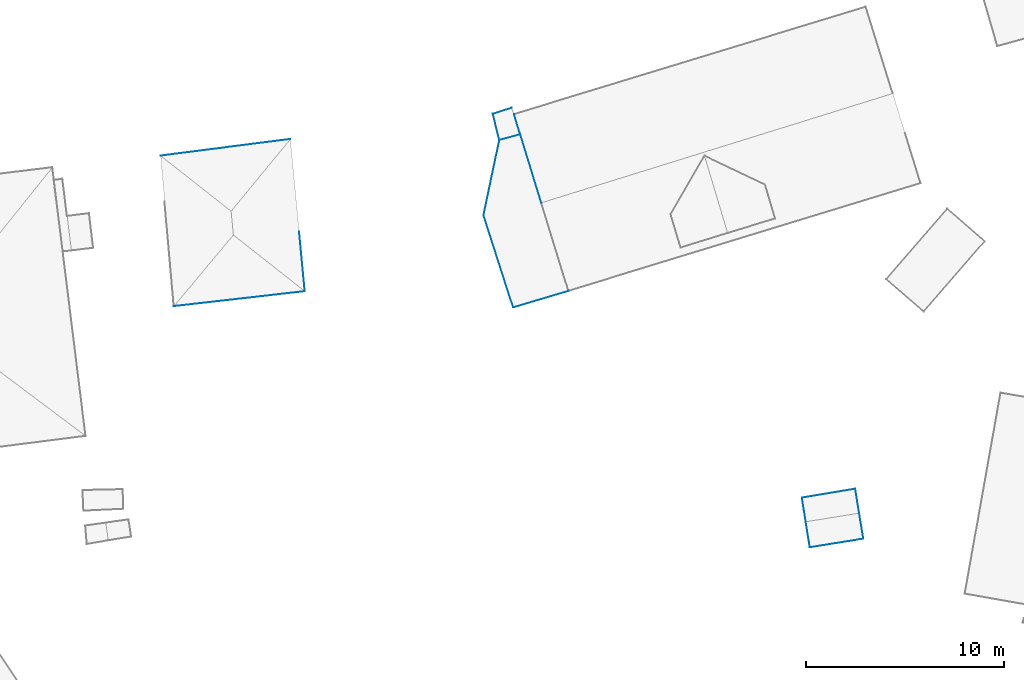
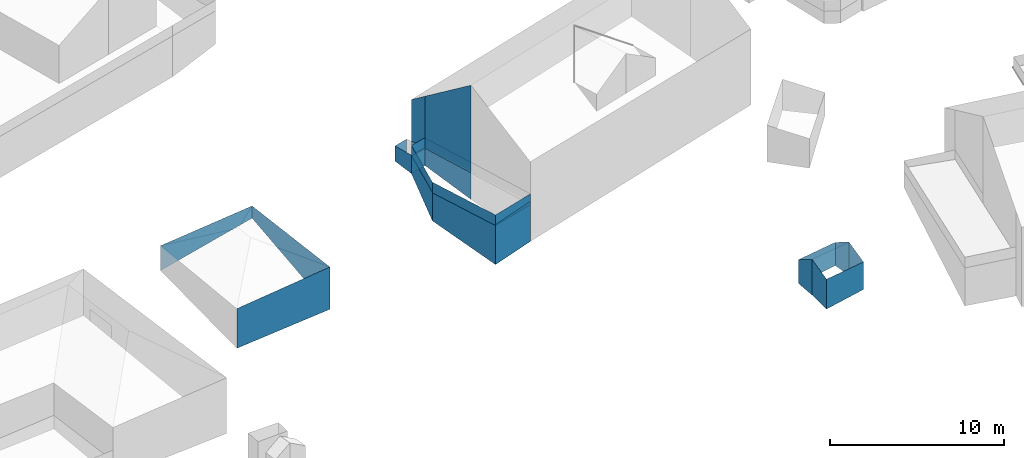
# Not in any storey, part 5 of 57: 35 walls.
"""IFC2X3 building model written with IfcOpenShell, lengths in metres."""

import ifcopenshell
import ifcopenshell.guid

model = None  # the IFC model being written
_history = None  # IfcOwnerHistory: only IFC2X3 demands one
_inside = {}  # id of a spatial element -> (the spatial element, [elements in it])
_under = {}  # id of a project, library or spatial element -> (it, [spatial elements below it])
_declared = {}  # id of a project -> (the project, [libraries it declares])
_typed = {}  # id of a type object -> (the type object, [elements of that type])
_made_of = {}  # id of a material, layer set ... -> (it, [elements and type objects made of it])


def new_model(schema):
    """Start an empty IFC model of exactly this schema.

    Asked for "IFC4X3", IfcOpenShell would pick the latest addendum, in which some entities
    have other attributes; the version numbers below select the first issue.
    IFC2X3 requires an IfcOwnerHistory on every rooted entity: one is made here for all.
    """
    global model, _history
    if schema == "IFC4X3":
        model = ifcopenshell.file(schema_version=(4, 3, 0, 0))
    else:
        model = ifcopenshell.file(schema=schema)
    _inside.clear()
    _under.clear()
    _declared.clear()
    _typed.clear()
    _made_of.clear()
    _history = None
    if model.schema == "IFC2X3":
        org = make("IfcOrganization", Name="unknown")
        user = make(
            "IfcPersonAndOrganization",
            ThePerson=make("IfcPerson", FamilyName="unknown"),
            TheOrganization=org,
        )
        app = make(
            "IfcApplication",
            ApplicationDeveloper=org,
            Version="unknown",
            ApplicationFullName="unknown",
            ApplicationIdentifier="unknown",
        )
        _history = make(
            "IfcOwnerHistory",
            OwningUser=user,
            OwningApplication=app,
            ChangeAction="ADDED",
            CreationDate=0,
        )
    return model


def make(cls, **values):
    """One entity of the class cls with the attributes given. An attribute that is None is left unset."""
    return model.create_entity(
        cls, **{name: value for name, value in values.items() if value is not None}
    )


def entity(cls, *values):
    """Any entity or typed value of the class cls, its attributes in the order of the schema. None: left unset."""
    e = model.create_entity(cls)
    for i, value in enumerate(values):
        if value is not None:
            e[i] = value
    return e


def rooted(cls, **values):
    """An entity with a GlobalId (a new one), such as an element, a storey or a relation."""
    return make(cls, GlobalId=ifcopenshell.guid.new(), OwnerHistory=_history, **values)


def si_unit(unit_type, name, prefix=None):
    """IfcSIUnit, for example si_unit("LENGTHUNIT", "METRE", prefix="MILLI")."""
    return make("IfcSIUnit", UnitType=unit_type, Prefix=prefix, Name=name)


def converted_unit(unit_type, name, factor, base, dimensions=None, offset=None):
    """IfcConversionBasedUnit, such as the inch: factor (a typed value) times the base unit."""
    return make(
        "IfcConversionBasedUnit"
        if offset is None
        else "IfcConversionBasedUnitWithOffset",
        ConversionOffset=offset,
        Dimensions=None
        if dimensions is None
        else entity("IfcDimensionalExponents", *dimensions),
        UnitType=unit_type,
        Name=name,
        ConversionFactor=make(
            "IfcMeasureWithUnit", ValueComponent=factor, UnitComponent=base
        ),
    )


def assignment(units):
    """IfcUnitAssignment: the units of a project."""
    return None if units is None else make("IfcUnitAssignment", Units=units)


def point(xyz):
    """IfcCartesianPoint."""
    return None if xyz is None else make("IfcCartesianPoint", Coordinates=xyz)


def direction(xyz):
    """IfcDirection."""
    return None if xyz is None else make("IfcDirection", DirectionRatios=xyz)


def frame(location, z_axis=None, x_axis=None):
    """IfcAxis2Placement3D, a coordinate frame: its origin and axes. An axis left out is left unset."""
    return make(
        "IfcAxis2Placement3D",
        Location=point(location),
        Axis=direction(z_axis),
        RefDirection=direction(x_axis),
    )


def origin():
    """The frame at (0, 0, 0) with its axes left unset."""
    return frame((0.0, 0.0, 0.0))


def place(relative_to, where):
    """IfcLocalPlacement: puts the frame where relative to a parent placement (None: the world)."""
    return make(
        "IfcLocalPlacement", PlacementRelTo=relative_to, RelativePlacement=where
    )


def context(
    kind, dimensions, precision=None, world=None, true_north=None, identifier=None
):
    """IfcGeometricRepresentationContext, for example the 3D "Model" context."""
    return make(
        "IfcGeometricRepresentationContext",
        ContextIdentifier=identifier,
        ContextType=kind,
        CoordinateSpaceDimension=dimensions,
        Precision=precision,
        WorldCoordinateSystem=world,
        TrueNorth=true_north,
    )


def subcontext(parent, identifier, kind, view, scale=None):
    """IfcGeometricRepresentationSubContext, for example "Body" below "Model"."""
    return make(
        "IfcGeometricRepresentationSubContext",
        ContextIdentifier=identifier,
        ContextType=kind,
        ParentContext=parent,
        TargetScale=scale,
        TargetView=view,
    )


def project(units=None, contexts=None):
    """IfcProject with its units and contexts."""
    return rooted(
        "IfcProject",
        Name="project",
        RepresentationContexts=contexts,
        UnitsInContext=assignment(units),
    )


def spatial(cls, under=None, at=None, **own):
    """A site, building, storey or space (cls), placed at a placement, below another one or the project."""
    s = rooted(cls, ObjectPlacement=at, **own)
    if under is not None:
        _under.setdefault(under.id(), (under, []))[1].append(s)
    return s


def faces_of(points, faces, orient=None, outer=None):
    """IfcFace entities. A face is a list of loops; a loop is a list of indices into points, from 0.

    orient and outer hold one flag for each loop. By default every Orientation is true, the
    first loop of a face is its IfcFaceOuterBound and the others are IfcFaceBound.
    """
    made = []
    for i, loops in enumerate(faces):
        bounds = []
        for j, loop in enumerate(loops):
            is_outer = j == 0 if outer is None else outer[i][j]
            bounds.append(
                make(
                    "IfcFaceOuterBound" if is_outer else "IfcFaceBound",
                    Bound=make("IfcPolyLoop", Polygon=[points[k] for k in loop]),
                    Orientation=True if orient is None else orient[i][j],
                )
            )
        made.append(make("IfcFace", Bounds=bounds))
    return made


def face_set(faces, orient=None, outer=None):
    """The faces of one IfcConnectedFaceSet. surface_model builds it on its shared points."""
    return ("IfcConnectedFaceSet", faces, orient, outer)


def surface_model(cls, points, shells):
    """IfcFaceBasedSurfaceModel or IfcShellBasedSurfaceModel (cls): surfaces that need not close."""
    shared = [point(p) for p in points]
    made = [make(c, CfsFaces=faces_of(shared, fs, o, b)) for c, fs, o, b in shells]
    if cls == "IfcFaceBasedSurfaceModel":
        return make(cls, FbsmFaces=made)
    return make(cls, SbsmBoundary=made)


def shape(context_of_items, identifier, shape_type, items):
    """IfcShapeRepresentation: the items that make up one representation, for example the "Body"."""
    return make(
        "IfcShapeRepresentation",
        ContextOfItems=context_of_items,
        RepresentationIdentifier=identifier,
        RepresentationType=shape_type,
        Items=items,
    )


def made_of(thing, what):
    """Note that an element or type object is made of a material, layer set ...; save() writes the relation."""
    if what is not None:
        _made_of.setdefault(what.id(), (what, []))[1].append(thing)
    return thing


def element(
    cls,
    number,
    at=None,
    inside=None,
    cuts=None,
    type_object=None,
    material=None,
    context=None,
    identifier="Body",
    shape_type=None,
    held_by="IfcProductDefinitionShape",
    body=None,
    shapes=None,
    **own,
):
    """One element of the class cls, such as IfcWall. Its Tag is "e" and its number.

    at: its placement. inside: the storey or other place that contains it. cuts: it is an
    opening in that element (IfcRelVoidsElement). A single representation is given by context,
    identifier, shape_type and body (its items); several are given by shapes. held_by: the class
    of the entity that holds the representations. save() writes the other relations.
    """
    e = rooted(cls, Tag="e%d" % number, ObjectPlacement=at, **own)
    if body is not None:
        shapes = [shape(context, identifier, shape_type, body)]
    if shapes is not None:
        e.Representation = make(held_by, Representations=shapes)
    if inside is not None:
        _inside.setdefault(inside.id(), (inside, []))[1].append(e)
    if cuts is not None:
        rooted(
            "IfcRelVoidsElement", RelatingBuildingElement=cuts, RelatedOpeningElement=e
        )
    if type_object is not None:
        _typed.setdefault(type_object.id(), (type_object, []))[1].append(e)
    return made_of(e, material)


def aggregate(whole, parts):
    """IfcRelAggregates: a whole, such as a stair, and the parts it consists of."""
    return rooted("IfcRelAggregates", RelatingObject=whole, RelatedObjects=parts)


def save(model, path):
    """Write the relations noted so far, then the file.

    IfcRelAggregates (storeys below a building ...), IfcRelContainedInSpatialStructure (elements
    in a storey), IfcRelDefinesByType, IfcRelAssociatesMaterial and IfcRelDeclares: one each for
    every whole, place, type object, material and project.
    """
    for whole, parts in _under.values():
        aggregate(whole, parts)
    for where, things in _inside.values():
        rooted(
            "IfcRelContainedInSpatialStructure",
            RelatedElements=things,
            RelatingStructure=where,
        )
    for kind, things in _typed.values():
        rooted("IfcRelDefinesByType", RelatedObjects=things, RelatingType=kind)
    for what, things in _made_of.values():
        rooted("IfcRelAssociatesMaterial", RelatedObjects=things, RelatingMaterial=what)
    for by, libraries in _declared.values():
        rooted("IfcRelDeclares", RelatingContext=by, RelatedDefinitions=libraries)
    model.write(path)


model = new_model("IFC2X3")

# Units and contexts
model_context = context("Model", 3, precision=1e-05, world=origin())
body_context = subcontext(model_context, "Body", "Model", "MODEL_VIEW")
ifc_project = project(units=[converted_unit("PLANEANGLEUNIT", "DEGREE", entity("IfcRatioMeasure", 0.0174532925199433), si_unit("PLANEANGLEUNIT", "RADIAN"), dimensions=[0, 0, 0, 0, 0, 0, 0]), si_unit("AREAUNIT", "SQUARE_METRE"), si_unit("LENGTHUNIT", "METRE")], contexts=[model_context])

# Site, building
site_placement = place(None, origin())
site = spatial("IfcSite", under=ifc_project, at=site_placement, Name="_site", CompositionType="ELEMENT")
building_1_placement = place(site_placement, origin())
building_1 = spatial("IfcBuilding", under=site, at=building_1_placement, Name="_building", CompositionType="ELEMENT")

# Walls
wall_1_placement = place(building_1_placement, origin())
element("IfcWall", 1, at=wall_1_placement, inside=building_1, Name="Wall", context=body_context, shape_type="SurfaceModel", body=[
    surface_model("IfcFaceBasedSurfaceModel", [(124.001, 109.289, 120.52), (122.94, 112.745, 118.02), (122.94, 112.745, 114.36), (124.001, 109.289, 114.36)], [face_set([[[0, 1, 2, 3]]])]),
])
wall_2_placement = place(building_1_placement, origin())
element("IfcWall", 2, at=wall_2_placement, inside=building_1, Name="Wall", context=body_context, shape_type="SurfaceModel", body=[
    surface_model("IfcFaceBasedSurfaceModel", [(122.623, 113.763, 114.36), (122.94, 112.745, 114.43), (122.94, 112.745, 113.157), (122.623, 113.763, 113.338)], [face_set([[[0, 1, 2, 3]]])]),
])
wall_3_placement = place(building_1_placement, origin())
element("IfcWall", 3, at=wall_3_placement, inside=building_1, Name="Wall", context=body_context, shape_type="SurfaceModel", body=[
    surface_model("IfcFaceBasedSurfaceModel", [(122.94, 112.745, 114.36), (124.001, 109.289, 114.36), (124.001, 109.289, 112.498), (122.94, 112.745, 113.157)], [face_set([[[0, 1, 2, 3]]])]),
])
wall_4_placement = place(building_1_placement, origin())
element("IfcWall", 4, at=wall_4_placement, inside=building_1, Name="Wall", context=body_context, shape_type="SurfaceModel", body=[
    surface_model("IfcFaceBasedSurfaceModel", [(121.882, 112.46, 114.43), (121.553, 113.779, 114.39), (121.553, 113.779, 113.322), (121.882, 112.46, 113.124)], [face_set([[[0, 1, 2, 3]]])]),
])
wall_5_placement = place(building_1_placement, origin())
element("IfcWall", 5, at=wall_5_placement, inside=building_1, Name="Wall", context=body_context, shape_type="SurfaceModel", body=[
    surface_model("IfcFaceBasedSurfaceModel", [(122.94, 112.745, 118.02), (122.623, 113.763, 117.28), (122.623, 113.763, 113.338), (122.94, 112.745, 113.157)], [face_set([[[0, 1, 2, 3]]])]),
])
wall_6_placement = place(building_1_placement, origin())
element("IfcWall", 6, at=wall_6_placement, inside=building_1, Name="Wall", context=body_context, shape_type="SurfaceModel", body=[
    surface_model("IfcFaceBasedSurfaceModel", [(121.553, 113.779, 114.39), (122.501, 114.087, 114.36), (122.501, 114.087, 113.396), (121.553, 113.779, 113.322)], [face_set([[[0, 1, 2, 3]]])]),
])

# Building
building_2_placement = place(site_placement, origin())
building_2 = spatial("IfcBuilding", under=site, at=building_2_placement, Name="_building", CompositionType="ELEMENT")

# Walls
wall_7_placement = place(building_2_placement, origin())
element("IfcWall", 7, at=wall_7_placement, inside=building_2, Name="Wall", context=body_context, shape_type="SurfaceModel", body=[
    surface_model("IfcFaceBasedSurfaceModel", [(121.882, 112.46, 114.36), (122.94, 112.745, 114.36), (122.94, 112.745, 113.157), (121.882, 112.46, 113.124)], [face_set([[[0, 1, 2, 3]]])]),
])
wall_8_placement = place(building_2_placement, origin())
element("IfcWall", 8, at=wall_8_placement, inside=building_2, Name="Wall", context=body_context, shape_type="SurfaceModel", body=[
    surface_model("IfcFaceBasedSurfaceModel", [(121.083, 108.666, 114.36), (121.882, 112.46, 114.36), (121.882, 112.46, 113.124), (121.083, 108.666, 112.39)], [face_set([[[0, 1, 2, 3]]])]),
])
wall_9_placement = place(building_2_placement, origin())
element("IfcWall", 9, at=wall_9_placement, inside=building_2, Name="Wall", context=body_context, shape_type="SurfaceModel", body=[
    surface_model("IfcFaceBasedSurfaceModel", [(122.585, 103.998, 114.36), (121.083, 108.666, 114.36), (121.083, 108.666, 112.39), (122.585, 103.998, 111.618)], [face_set([[[0, 1, 2, 3]]])]),
])
wall_10_placement = place(building_2_placement, origin())
element("IfcWall", 10, at=wall_10_placement, inside=building_2, Name="Wall", context=body_context, shape_type="SurfaceModel", body=[
    surface_model("IfcFaceBasedSurfaceModel", [(125.376, 104.833, 114.36), (122.585, 103.998, 114.36), (122.585, 103.998, 111.618), (125.376, 104.833, 111.765)], [face_set([[[0, 1, 2, 3]]])]),
])
wall_11_placement = place(building_2_placement, origin())
element("IfcWall", 11, at=wall_11_placement, inside=building_2, Name="Wall", context=body_context, shape_type="SurfaceModel", body=[
    surface_model("IfcFaceBasedSurfaceModel", [(122.94, 112.745, 114.43), (121.882, 112.46, 114.43), (121.882, 112.46, 113.124), (122.94, 112.745, 113.157)], [face_set([[[0, 1, 2, 3]]])]),
])
wall_12_placement = place(building_2_placement, origin())
element("IfcWall", 12, at=wall_12_placement, inside=building_2, Name="Wall", context=body_context, shape_type="SurfaceModel", body=[
    surface_model("IfcFaceBasedSurfaceModel", [(122.94, 112.745, 114.43), (124.001, 109.289, 114.491), (124.001, 109.289, 112.498), (122.94, 112.745, 113.157)], [face_set([[[0, 1, 2, 3]]])]),
])
wall_13_placement = place(building_2_placement, origin())
element("IfcWall", 13, at=wall_13_placement, inside=building_2, Name="Wall", context=body_context, shape_type="SurfaceModel", body=[
    surface_model("IfcFaceBasedSurfaceModel", [(121.882, 112.46, 114.43), (122.94, 112.745, 114.43), (122.94, 112.745, 113.157), (121.882, 112.46, 113.124)], [face_set([[[0, 1, 2, 3]]])]),
])
wall_14_placement = place(building_2_placement, origin())
element("IfcWall", 14, at=wall_14_placement, inside=building_2, Name="Wall", context=body_context, shape_type="SurfaceModel", body=[
    surface_model("IfcFaceBasedSurfaceModel", [(121.083, 108.666, 114.43), (121.882, 112.46, 114.43), (121.882, 112.46, 113.124), (121.083, 108.666, 112.39)], [face_set([[[0, 1, 2, 3]]])]),
])
wall_15_placement = place(building_2_placement, origin())
element("IfcWall", 15, at=wall_15_placement, inside=building_2, Name="Wall", context=body_context, shape_type="SurfaceModel", body=[
    surface_model("IfcFaceBasedSurfaceModel", [(122.585, 103.998, 114.45), (121.083, 108.666, 114.43), (121.083, 108.666, 112.39), (122.585, 103.998, 111.618)], [face_set([[[0, 1, 2, 3]]])]),
])
wall_16_placement = place(building_2_placement, origin())
element("IfcWall", 16, at=wall_16_placement, inside=building_2, Name="Wall", context=body_context, shape_type="SurfaceModel", body=[
    surface_model("IfcFaceBasedSurfaceModel", [(125.376, 104.833, 114.57), (122.585, 103.998, 114.45), (122.585, 103.998, 111.618), (125.376, 104.833, 111.765)], [face_set([[[0, 1, 2, 3]]])]),
])
wall_17_placement = place(building_2_placement, origin())
element("IfcWall", 17, at=wall_17_placement, inside=building_2, Name="Wall", context=body_context, shape_type="SurfaceModel", body=[
    surface_model("IfcFaceBasedSurfaceModel", [(122.94, 112.745, 114.36), (121.882, 112.46, 114.36), (121.882, 112.46, 115.11), (122.94, 112.745, 115.11)], [face_set([[[0, 1, 2, 3]]])]),
])
wall_18_placement = place(building_2_placement, origin())
element("IfcWall", 18, at=wall_18_placement, inside=building_2, Name="Wall", context=body_context, shape_type="SurfaceModel", body=[
    surface_model("IfcFaceBasedSurfaceModel", [(124.001, 109.289, 114.36), (122.94, 112.745, 114.36), (122.94, 112.745, 115.11), (124.001, 109.289, 115.11)], [face_set([[[0, 1, 2, 3]]])]),
])
wall_19_placement = place(building_2_placement, origin())
element("IfcWall", 19, at=wall_19_placement, inside=building_2, Name="Wall", context=body_context, shape_type="SurfaceModel", body=[
    surface_model("IfcFaceBasedSurfaceModel", [(122.585, 103.998, 114.36), (125.376, 104.833, 114.36), (125.376, 104.833, 115.11), (122.585, 103.998, 115.11)], [face_set([[[0, 1, 2, 3]]])]),
])
wall_20_placement = place(building_2_placement, origin())
element("IfcWall", 20, at=wall_20_placement, inside=building_2, Name="Wall", context=body_context, shape_type="SurfaceModel", body=[
    surface_model("IfcFaceBasedSurfaceModel", [(121.083, 108.666, 114.36), (122.585, 103.998, 114.36), (122.585, 103.998, 115.11), (121.083, 108.666, 115.11)], [face_set([[[0, 1, 2, 3]]])]),
])
wall_21_placement = place(building_2_placement, origin())
element("IfcWall", 21, at=wall_21_placement, inside=building_2, Name="Wall", context=body_context, shape_type="SurfaceModel", body=[
    surface_model("IfcFaceBasedSurfaceModel", [(121.882, 112.46, 114.36), (121.083, 108.666, 114.36), (121.083, 108.666, 115.11), (121.882, 112.46, 115.11)], [face_set([[[0, 1, 2, 3]]])]),
])
wall_22_placement = place(building_2_placement, origin())
element("IfcWall", 22, at=wall_22_placement, inside=building_2, Name="Wall", context=body_context, shape_type="SurfaceModel", body=[
    surface_model("IfcFaceBasedSurfaceModel", [(122.94, 112.745, 114.36), (121.882, 112.46, 114.36), (121.882, 112.46, 115.11), (122.94, 112.745, 115.11)], [face_set([[[0, 1, 2, 3]]])]),
])
wall_23_placement = place(building_2_placement, origin())
element("IfcWall", 23, at=wall_23_placement, inside=building_2, Name="Wall", context=body_context, shape_type="SurfaceModel", body=[
    surface_model("IfcFaceBasedSurfaceModel", [(124.001, 109.289, 114.36), (122.94, 112.745, 114.36), (122.94, 112.745, 115.11), (124.001, 109.289, 115.11)], [face_set([[[0, 1, 2, 3]]])]),
])
wall_24_placement = place(building_2_placement, origin())
element("IfcWall", 24, at=wall_24_placement, inside=building_2, Name="Wall", context=body_context, shape_type="SurfaceModel", body=[
    surface_model("IfcFaceBasedSurfaceModel", [(122.585, 103.998, 114.36), (125.376, 104.833, 114.36), (125.376, 104.833, 115.11), (122.585, 103.998, 115.11)], [face_set([[[0, 1, 2, 3]]])]),
])
wall_25_placement = place(building_2_placement, origin())
element("IfcWall", 25, at=wall_25_placement, inside=building_2, Name="Wall", context=body_context, shape_type="SurfaceModel", body=[
    surface_model("IfcFaceBasedSurfaceModel", [(121.083, 108.666, 114.36), (122.585, 103.998, 114.36), (122.585, 103.998, 115.11), (121.083, 108.666, 115.11)], [face_set([[[0, 1, 2, 3]]])]),
])
wall_26_placement = place(building_2_placement, origin())
element("IfcWall", 26, at=wall_26_placement, inside=building_2, Name="Wall", context=body_context, shape_type="SurfaceModel", body=[
    surface_model("IfcFaceBasedSurfaceModel", [(121.882, 112.46, 114.36), (121.083, 108.666, 114.36), (121.083, 108.666, 115.11), (121.882, 112.46, 115.11)], [face_set([[[0, 1, 2, 3]]])]),
])

# Building
building_3_placement = place(site_placement, origin())
building_3 = spatial("IfcBuilding", under=site, at=building_3_placement, Name="_building", CompositionType="ELEMENT")

# Walls
wall_27_placement = place(building_3_placement, origin())
element("IfcWall", 27, at=wall_27_placement, inside=building_3, Name="Wall", context=body_context, shape_type="SurfaceModel", body=[
    surface_model("IfcFaceBasedSurfaceModel", [(139.871, 94.828, 112.7), (140.072, 93.603, 113.38), (140.072, 93.603, 111.021), (139.871, 94.828, 111.063)], [face_set([[[0, 1, 2, 3]]])]),
])
wall_28_placement = place(building_3_placement, origin())
element("IfcWall", 28, at=wall_28_placement, inside=building_3, Name="Wall", context=body_context, shape_type="SurfaceModel", body=[
    surface_model("IfcFaceBasedSurfaceModel", [(137.179, 94.381, 112.7), (139.871, 94.828, 112.7), (139.871, 94.828, 111.063), (137.179, 94.381, 111.003)], [face_set([[[0, 1, 2, 3]]])]),
])
wall_29_placement = place(building_3_placement, origin())
element("IfcWall", 29, at=wall_29_placement, inside=building_3, Name="Wall", context=body_context, shape_type="SurfaceModel", body=[
    surface_model("IfcFaceBasedSurfaceModel", [(137.37, 93.166, 113.38), (137.179, 94.381, 112.7), (137.179, 94.381, 111.003), (137.37, 93.166, 110.869)], [face_set([[[0, 1, 2, 3]]])]),
])
wall_30_placement = place(building_3_placement, origin())
element("IfcWall", 30, at=wall_30_placement, inside=building_3, Name="Wall", context=body_context, shape_type="SurfaceModel", body=[
    surface_model("IfcFaceBasedSurfaceModel", [(137.58, 91.87, 112.7), (137.37, 93.166, 113.38), (137.37, 93.166, 110.869), (137.58, 91.87, 110.603)], [face_set([[[0, 1, 2, 3]]])]),
])
wall_31_placement = place(building_3_placement, origin())
element("IfcWall", 31, at=wall_31_placement, inside=building_3, Name="Wall", context=body_context, shape_type="SurfaceModel", body=[
    surface_model("IfcFaceBasedSurfaceModel", [(140.282, 92.307, 112.7), (137.58, 91.87, 112.7), (137.58, 91.87, 110.603), (140.282, 92.307, 110.765)], [face_set([[[0, 1, 2, 3]]])]),
])
wall_32_placement = place(building_3_placement, origin())
element("IfcWall", 32, at=wall_32_placement, inside=building_3, Name="Wall", context=body_context, shape_type="SurfaceModel", body=[
    surface_model("IfcFaceBasedSurfaceModel", [(140.072, 93.603, 113.38), (140.282, 92.307, 112.7), (140.282, 92.307, 110.765), (140.072, 93.603, 111.021)], [face_set([[[0, 1, 2, 3]]])]),
])

# Building
building_4_placement = place(site_placement, origin())
building_4 = spatial("IfcBuilding", under=site, at=building_4_placement, Name="_building", CompositionType="ELEMENT")

# Walls
wall_33_placement = place(building_4_placement, origin())
element("IfcWall", 33, at=wall_33_placement, inside=building_4, Name="Wall", context=body_context, shape_type="SurfaceModel", body=[
    surface_model("IfcFaceBasedSurfaceModel", [(104.753, 111.67, 114.54), (111.317, 112.507, 114.53), (111.317, 112.507, 113.665), (104.753, 111.67, 112.791)], [face_set([[[0, 1, 2, 3]]])]),
])
wall_34_placement = place(building_4_placement, origin())
element("IfcWall", 34, at=wall_34_placement, inside=building_4, Name="Wall", context=body_context, shape_type="SurfaceModel", body=[
    surface_model("IfcFaceBasedSurfaceModel", [(112.047, 104.815, 114.65), (105.426, 104.06, 114.5), (105.426, 104.06, 111.708), (112.047, 104.815, 111.679)], [face_set([[[0, 1, 2, 3]]])]),
])
wall_35_placement = place(building_4_placement, origin())
element("IfcWall", 35, at=wall_35_placement, inside=building_4, Name="Wall", context=body_context, shape_type="SurfaceModel", body=[
    surface_model("IfcFaceBasedSurfaceModel", [(111.317, 112.507, 114.53), (112.047, 104.815, 114.65), (112.047, 104.815, 111.679), (111.317, 112.507, 113.665)], [face_set([[[0, 1, 2, 3]]])]),
])

save(model, "model.ifc")
